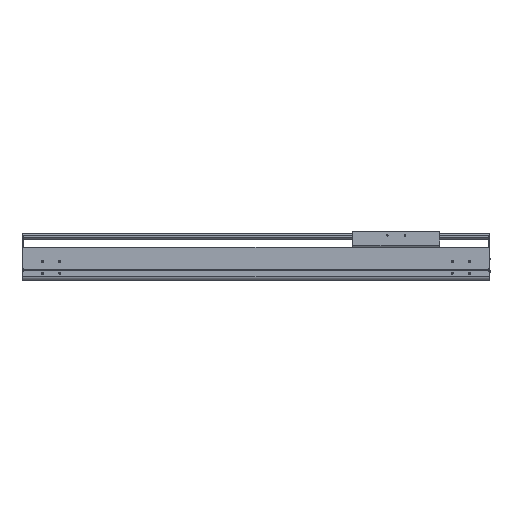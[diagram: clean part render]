
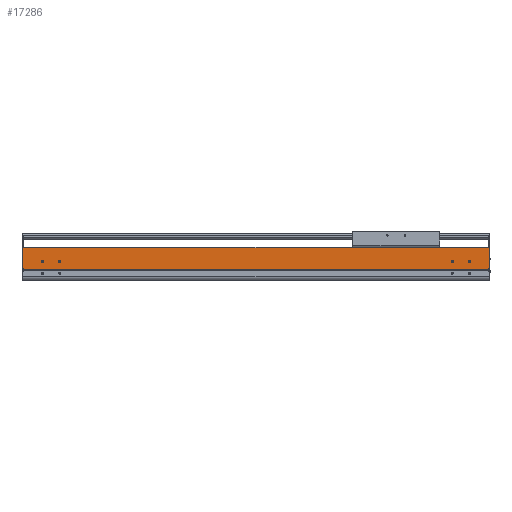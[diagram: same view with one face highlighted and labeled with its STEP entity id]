
A CAD part, top view. The second image highlights one B-rep face of the part: STEP entity #17286.
In plain terms, the highlighted planar face has unit normal (0, 0, 1).
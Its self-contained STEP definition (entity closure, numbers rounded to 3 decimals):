
#510=DIRECTION('',(0.,-1.,0.));
#511=VECTOR('',#510,2.55);
#512=CARTESIAN_POINT('',(0.,34.65,107.));
#513=LINE('',#512,#511);
#2135=DIRECTION('',(1.,0.,0.));
#2136=VECTOR('',#2135,2.);
#2137=CARTESIAN_POINT('',(0.,34.65,107.));
#2138=LINE('',#2137,#2136);
#2143=CARTESIAN_POINT('',(-54.5,54.,107.));
#2144=DIRECTION('',(0.,0.,-1.));
#2145=DIRECTION('',(1.,0.,0.));
#2146=AXIS2_PLACEMENT_3D('',#2143,#2144,#2145);
#2148=CARTESIAN_POINT('',(-54.5,54.,107.));
#2149=DIRECTION('',(0.,0.,-1.));
#2150=DIRECTION('',(-1.,0.,0.));
#2151=AXIS2_PLACEMENT_3D('',#2148,#2149,#2150);
#2153=CARTESIAN_POINT('',(-104.5,54.,107.));
#2154=DIRECTION('',(0.,0.,-1.));
#2155=DIRECTION('',(1.,0.,0.));
#2156=AXIS2_PLACEMENT_3D('',#2153,#2154,#2155);
#2158=CARTESIAN_POINT('',(-104.5,54.,107.));
#2159=DIRECTION('',(0.,0.,-1.));
#2160=DIRECTION('',(-1.,0.,0.));
#2161=AXIS2_PLACEMENT_3D('',#2158,#2159,#2160);
#2163=CARTESIAN_POINT('',(-1284.5,54.,107.));
#2164=DIRECTION('',(0.,0.,-1.));
#2165=DIRECTION('',(1.,0.,0.));
#2166=AXIS2_PLACEMENT_3D('',#2163,#2164,#2165);
#2168=CARTESIAN_POINT('',(-1284.5,54.,107.));
#2169=DIRECTION('',(0.,0.,-1.));
#2170=DIRECTION('',(-1.,0.,0.));
#2171=AXIS2_PLACEMENT_3D('',#2168,#2169,#2170);
#2173=CARTESIAN_POINT('',(-1234.5,54.,107.));
#2174=DIRECTION('',(0.,0.,-1.));
#2175=DIRECTION('',(1.,0.,0.));
#2176=AXIS2_PLACEMENT_3D('',#2173,#2174,#2175);
#2178=CARTESIAN_POINT('',(-1234.5,54.,107.));
#2179=DIRECTION('',(0.,0.,-1.));
#2180=DIRECTION('',(-1.,0.,0.));
#2181=AXIS2_PLACEMENT_3D('',#2178,#2179,#2180);
#2183=DIRECTION('',(0.,-1.,0.));
#2184=VECTOR('',#2183,2.55);
#2185=CARTESIAN_POINT('',(-1339.,34.65,107.));
#2186=LINE('',#2185,#2184);
#2187=DIRECTION('',(0.,-1.,0.));
#2188=VECTOR('',#2187,58.85);
#2189=CARTESIAN_POINT('',(-1341.,93.5,107.));
#2190=LINE('',#2189,#2188);
#2191=DIRECTION('',(0.,1.,0.));
#2192=VECTOR('',#2191,58.85);
#2193=CARTESIAN_POINT('',(2.,34.65,107.));
#2194=LINE('',#2193,#2192);
#2195=DIRECTION('',(1.,0.,0.));
#2196=VECTOR('',#2195,1339.);
#2197=CARTESIAN_POINT('',(-1339.,32.1,107.));
#2198=LINE('',#2197,#2196);
#2307=DIRECTION('',(1.,0.,0.));
#2308=VECTOR('',#2307,2.);
#2309=CARTESIAN_POINT('',(-1341.,34.65,107.));
#2310=LINE('',#2309,#2308);
#2311=DIRECTION('',(-1.,0.,0.));
#2312=VECTOR('',#2311,1343.);
#2313=CARTESIAN_POINT('',(2.,93.5,107.));
#2314=LINE('',#2313,#2312);
#11607=CARTESIAN_POINT('',(-1341.,34.65,107.));
#11608=VERTEX_POINT('',#11607);
#11609=CARTESIAN_POINT('',(-1341.,93.5,107.));
#11610=VERTEX_POINT('',#11609);
#11839=CARTESIAN_POINT('',(-1339.,32.1,107.));
#11840=VERTEX_POINT('',#11839);
#12326=CARTESIAN_POINT('',(0.,32.1,107.));
#12327=VERTEX_POINT('',#12326);
#12328=CARTESIAN_POINT('',(-52.,54.,107.));
#12329=CARTESIAN_POINT('',(-57.,54.,107.));
#12330=VERTEX_POINT('',#12328);
#12331=VERTEX_POINT('',#12329);
#12332=CARTESIAN_POINT('',(-102.,54.,107.));
#12333=CARTESIAN_POINT('',(-107.,54.,107.));
#12334=VERTEX_POINT('',#12332);
#12335=VERTEX_POINT('',#12333);
#12336=CARTESIAN_POINT('',(-1282.,54.,107.));
#12337=CARTESIAN_POINT('',(-1287.,54.,107.));
#12338=VERTEX_POINT('',#12336);
#12339=VERTEX_POINT('',#12337);
#12340=CARTESIAN_POINT('',(-1232.,54.,107.));
#12341=CARTESIAN_POINT('',(-1237.,54.,107.));
#12342=VERTEX_POINT('',#12340);
#12343=VERTEX_POINT('',#12341);
#13433=CARTESIAN_POINT('',(2.,34.65,107.));
#13434=VERTEX_POINT('',#13433);
#13435=CARTESIAN_POINT('',(2.,93.5,107.));
#13436=VERTEX_POINT('',#13435);
#13779=CARTESIAN_POINT('',(0.,34.65,107.));
#13780=VERTEX_POINT('',#13779);
#13967=CARTESIAN_POINT('',(-1339.,34.65,107.));
#13968=VERTEX_POINT('',#13967);
#17244=CARTESIAN_POINT('',(-669.5,62.8,107.));
#17245=DIRECTION('',(0.,0.,1.));
#17246=DIRECTION('',(0.,-1.,0.));
#17247=AXIS2_PLACEMENT_3D('',#17244,#17245,#17246);
#17248=PLANE('',#17247);
#17249=ORIENTED_EDGE('',*,*,#14712,.F.);
#17251=ORIENTED_EDGE('',*,*,#17250,.F.);
#17252=ORIENTED_EDGE('',*,*,#15812,.F.);
#17254=ORIENTED_EDGE('',*,*,#17253,.F.);
#17255=ORIENTED_EDGE('',*,*,#17042,.F.);
#17256=ORIENTED_EDGE('',*,*,#17237,.F.);
#17257=ORIENTED_EDGE('',*,*,#15329,.T.);
#17259=ORIENTED_EDGE('',*,*,#17258,.F.);
#17260=EDGE_LOOP('',(#17249,#17251,#17252,#17254,#17255,#17256,#17257,#17259));
#17261=FACE_OUTER_BOUND('',#17260,.F.);
#17263=ORIENTED_EDGE('',*,*,#17262,.F.);
#17265=ORIENTED_EDGE('',*,*,#17264,.F.);
#17266=EDGE_LOOP('',(#17263,#17265));
#17267=FACE_BOUND('',#17266,.F.);
#17269=ORIENTED_EDGE('',*,*,#17268,.F.);
#17271=ORIENTED_EDGE('',*,*,#17270,.F.);
#17272=EDGE_LOOP('',(#17269,#17271));
#17273=FACE_BOUND('',#17272,.F.);
#17275=ORIENTED_EDGE('',*,*,#17274,.F.);
#17277=ORIENTED_EDGE('',*,*,#17276,.F.);
#17278=EDGE_LOOP('',(#17275,#17277));
#17279=FACE_BOUND('',#17278,.F.);
#17281=ORIENTED_EDGE('',*,*,#17280,.F.);
#17283=ORIENTED_EDGE('',*,*,#17282,.F.);
#17284=EDGE_LOOP('',(#17281,#17283));
#17285=FACE_BOUND('',#17284,.F.);
#17286=ADVANCED_FACE('',(#17261,#17267,#17273,#17279,#17285),#17248,.T.);
#2147=CIRCLE('',#2146,2.5);
#2152=CIRCLE('',#2151,2.5);
#2157=CIRCLE('',#2156,2.5);
#2162=CIRCLE('',#2161,2.5);
#2167=CIRCLE('',#2166,2.5);
#2172=CIRCLE('',#2171,2.5);
#2177=CIRCLE('',#2176,2.5);
#2182=CIRCLE('',#2181,2.5);
#14712=EDGE_CURVE('',#13968,#11840,#2186,.T.);
#15329=EDGE_CURVE('',#13780,#12327,#513,.T.);
#15812=EDGE_CURVE('',#11610,#11608,#2190,.T.);
#17042=EDGE_CURVE('',#13434,#13436,#2194,.T.);
#17237=EDGE_CURVE('',#13780,#13434,#2138,.T.);
#17250=EDGE_CURVE('',#11608,#13968,#2310,.T.);
#17253=EDGE_CURVE('',#13436,#11610,#2314,.T.);
#17258=EDGE_CURVE('',#11840,#12327,#2198,.T.);
#17262=EDGE_CURVE('',#12334,#12335,#2157,.T.);
#17264=EDGE_CURVE('',#12335,#12334,#2162,.T.);
#17268=EDGE_CURVE('',#12338,#12339,#2167,.T.);
#17270=EDGE_CURVE('',#12339,#12338,#2172,.T.);
#17274=EDGE_CURVE('',#12342,#12343,#2177,.T.);
#17276=EDGE_CURVE('',#12343,#12342,#2182,.T.);
#17280=EDGE_CURVE('',#12330,#12331,#2147,.T.);
#17282=EDGE_CURVE('',#12331,#12330,#2152,.T.);
